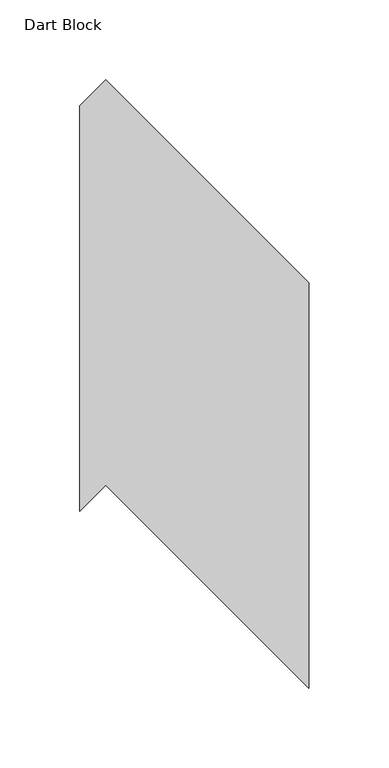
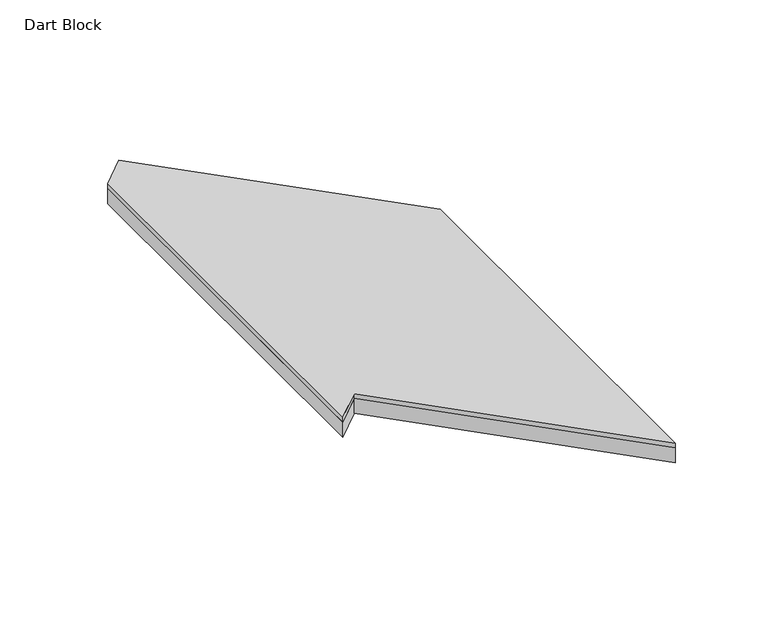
"""IFC4 building model written with IfcOpenShell, lengths in millimetres: proxy geometry, FilzFelt_Dart_Block : Dart Block."""

from ifc_helpers import new_model, si_unit, frame, origin, origin_with_axes, place, context, project, spatial, polyline, outline, extrude, source, transform, mapped, element, save


def dart_block_f40f4385(model_context):
    return source(origin(), model_context, "Body", "SweptSolid", [
        extrude(outline(polyline([(0.0, 190.5), (127.0, 63.5), (127.0, -190.5), (0.0, -63.5), (-16.3517499, -79.8517499), (-16.3517499, 174.1482501), (0.0, 190.5)])), frame((0.0, 0.0, 10.0210937), z_axis=(0.0, 0.0, 1.0), x_axis=(1.0, 0.0, 0.0)), (0.0, 0.0, 1.0), 2.9765625),
        extrude(outline(polyline([(127.0, -190.5), (0.0, -63.5), (-16.3517499, -79.8517499), (-16.3517499, 174.1482501), (0.0, 190.5), (127.0, 63.5), (127.0, -190.5)])), origin_with_axes(), (0.0, 0.0, 1.0), 10.0210938),
    ])


if __name__ == "__main__":
    model = new_model("IFC4")
    model_context = context("Model", 3, world=origin())
    ifc_project = project(units=[si_unit("LENGTHUNIT", "METRE", prefix="MILLI")], contexts=[model_context])
    site = spatial("IfcSite", under=ifc_project)
    building = spatial("IfcBuilding", under=site)
    placement = place(None, origin())
    dart_block_shape = dart_block_f40f4385(model_context)
    element("IfcBuildingElementProxy", 1, Name="FilzFelt_Dart_Block : Dart Block", ObjectType="FilzFelt_Dart_Block : Dart Block", at=placement, inside=building, context=model_context, shape_type="MappedRepresentation", body=[
        mapped(dart_block_shape, transform((0.0, 0.0, 0.0), x_axis=(1.0, 0.0, 0.0), y_axis=(0.0, 1.0, 0.0), z_axis=(0.0, 0.0, 1.0))),
    ])
    save(model, "model.ifc")
